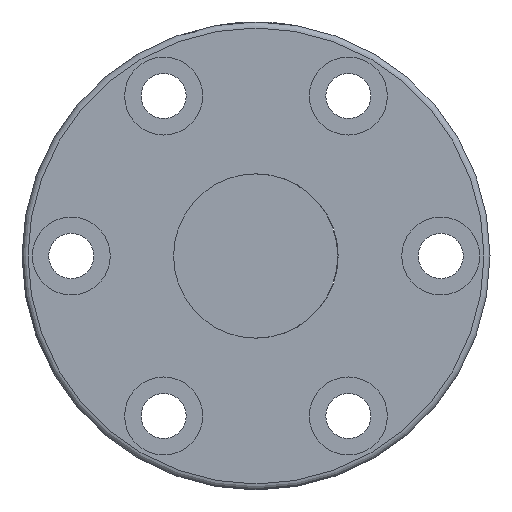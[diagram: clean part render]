
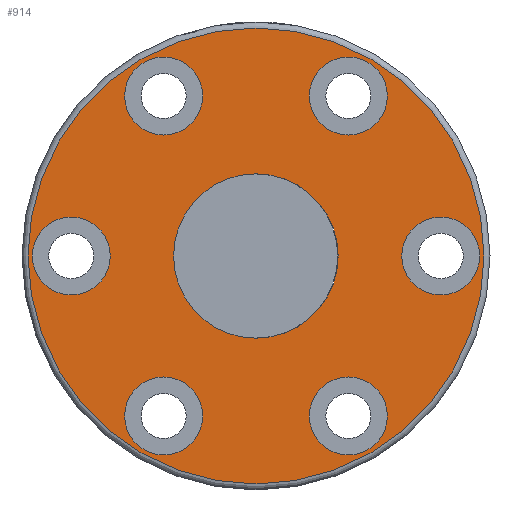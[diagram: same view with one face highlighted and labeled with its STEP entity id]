
A CAD part, front view. The second image highlights one B-rep face of the part: STEP entity #914.
In plain terms, the highlighted planar face has unit normal (0, -1, 0).
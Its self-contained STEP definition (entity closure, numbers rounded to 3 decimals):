
#8 = AXIS2_PLACEMENT_3D ( 'NONE', #836, #941, #947 ) ;
#10 = DIRECTION ( 'NONE',  ( 0., 0., 1. ) ) ;
#21 = CIRCLE ( 'NONE', #325, 27.767 ) ;
#40 = CARTESIAN_POINT ( 'NONE',  ( -22.461, -25.461, 4.75 ) ) ;
#46 = EDGE_CURVE ( 'NONE', #1024, #1024, #354, .T. ) ;
#103 = AXIS2_PLACEMENT_3D ( 'NONE', #989, #920, #656 ) ;
#112 = DIRECTION ( 'NONE',  ( 0., 1., 0. ) ) ;
#127 = EDGE_CURVE ( 'NONE', #1048, #1048, #901, .T. ) ;
#128 = FACE_BOUND ( 'NONE', #320, .T. ) ;
#132 = CARTESIAN_POINT ( 'NONE',  ( 11.289, -25.461, -19.486 ) ) ;
#149 = AXIS2_PLACEMENT_3D ( 'NONE', #676, #430, #10 ) ;
#174 = CARTESIAN_POINT ( 'NONE',  ( -11.211, -25.461, -14.736 ) ) ;
#200 = DIRECTION ( 'NONE',  ( 0., 0., 1. ) ) ;
#216 = FACE_BOUND ( 'NONE', #507, .T. ) ;
#222 = DIRECTION ( 'NONE',  ( 0., 1., 0. ) ) ;
#229 = FACE_BOUND ( 'NONE', #727, .T. ) ;
#237 = EDGE_CURVE ( 'NONE', #972, #972, #807, .T. ) ;
#244 = EDGE_CURVE ( 'NONE', #396, #396, #870, .T. ) ;
#256 = CARTESIAN_POINT ( 'NONE',  ( 11.289, -25.461, -14.736 ) ) ;
#259 = AXIS2_PLACEMENT_3D ( 'NONE', #571, #494, #804 ) ;
#270 = AXIS2_PLACEMENT_3D ( 'NONE', #386, #222, #645 ) ;
#313 = FACE_BOUND ( 'NONE', #881, .T. ) ;
#318 = VERTEX_POINT ( 'NONE', #644 ) ;
#320 = EDGE_LOOP ( 'NONE', ( #578 ) ) ;
#325 = AXIS2_PLACEMENT_3D ( 'NONE', #712, #618, #200 ) ;
#333 = AXIS2_PLACEMENT_3D ( 'NONE', #829, #420, #334 ) ;
#334 = DIRECTION ( 'NONE',  ( 0., 0., 1. ) ) ;
#354 = CIRCLE ( 'NONE', #103, 4.75 ) ;
#386 = CARTESIAN_POINT ( 'NONE',  ( 0.039, -25.461, 0. ) ) ;
#396 = VERTEX_POINT ( 'NONE', #40 ) ;
#407 = PLANE ( 'NONE',  #270 ) ;
#412 = EDGE_CURVE ( 'NONE', #318, #318, #21, .T. ) ;
#420 = DIRECTION ( 'NONE',  ( 0., 1., 0. ) ) ;
#430 = DIRECTION ( 'NONE',  ( 0., 1., 0. ) ) ;
#448 = DIRECTION ( 'NONE',  ( 0., 0., 1. ) ) ;
#459 = EDGE_LOOP ( 'NONE', ( #572 ) ) ;
#460 = CARTESIAN_POINT ( 'NONE',  ( -9.961, -25.461, 0. ) ) ;
#477 = ORIENTED_EDGE ( 'NONE', *, *, #412, .T. ) ;
#484 = DIRECTION ( 'NONE',  ( 0., 1., 0. ) ) ;
#494 = DIRECTION ( 'NONE',  ( 0., 1., 0. ) ) ;
#501 = ORIENTED_EDGE ( 'NONE', *, *, #237, .T. ) ;
#507 = EDGE_LOOP ( 'NONE', ( #501 ) ) ;
#522 = CARTESIAN_POINT ( 'NONE',  ( -11.211, -25.461, -19.486 ) ) ;
#523 = CIRCLE ( 'NONE', #1022, 4.75 ) ;
#547 = FACE_BOUND ( 'NONE', #459, .T. ) ;
#553 = CARTESIAN_POINT ( 'NONE',  ( 11.289, -25.461, 24.236 ) ) ;
#555 = EDGE_LOOP ( 'NONE', ( #909 ) ) ;
#571 = CARTESIAN_POINT ( 'NONE',  ( 11.289, -25.461, 19.486 ) ) ;
#572 = ORIENTED_EDGE ( 'NONE', *, *, #244, .T. ) ;
#578 = ORIENTED_EDGE ( 'NONE', *, *, #127, .T. ) ;
#583 = EDGE_CURVE ( 'NONE', #1090, #1090, #643, .T. ) ;
#592 = ORIENTED_EDGE ( 'NONE', *, *, #46, .T. ) ;
#618 = DIRECTION ( 'NONE',  ( 0., -1., 0. ) ) ;
#637 = FACE_OUTER_BOUND ( 'NONE', #1083, .T. ) ;
#643 = CIRCLE ( 'NONE', #1039, 4.75 ) ;
#644 = CARTESIAN_POINT ( 'NONE',  ( 0.039, -25.461, 27.767 ) ) ;
#645 = DIRECTION ( 'NONE',  ( 1., 0., 0. ) ) ;
#646 = ORIENTED_EDGE ( 'NONE', *, *, #583, .T. ) ;
#656 = DIRECTION ( 'NONE',  ( 0., 0., 1. ) ) ;
#674 = VERTEX_POINT ( 'NONE', #256 ) ;
#676 = CARTESIAN_POINT ( 'NONE',  ( -22.461, -25.461, 0. ) ) ;
#712 = CARTESIAN_POINT ( 'NONE',  ( 0.039, -25.461, 0. ) ) ;
#721 = FACE_BOUND ( 'NONE', #555, .T. ) ;
#727 = EDGE_LOOP ( 'NONE', ( #646 ) ) ;
#804 = DIRECTION ( 'NONE',  ( 0., 0., 1. ) ) ;
#807 = CIRCLE ( 'NONE', #8, 10. ) ;
#815 = DIRECTION ( 'NONE',  ( 0., 0., 1. ) ) ;
#829 = CARTESIAN_POINT ( 'NONE',  ( 22.539, -25.461, 0. ) ) ;
#836 = CARTESIAN_POINT ( 'NONE',  ( 0.039, -25.461, 0. ) ) ;
#839 = ORIENTED_EDGE ( 'NONE', *, *, #1082, .T. ) ;
#870 = CIRCLE ( 'NONE', #149, 4.75 ) ;
#881 = EDGE_LOOP ( 'NONE', ( #839 ) ) ;
#896 = VERTEX_POINT ( 'NONE', #988 ) ;
#901 = CIRCLE ( 'NONE', #259, 4.75 ) ;
#909 = ORIENTED_EDGE ( 'NONE', *, *, #949, .T. ) ;
#914 = ADVANCED_FACE ( 'NONE', ( #313, #547, #721, #229, #128, #1066, #637, #216 ), #407, .F. ) ;
#920 = DIRECTION ( 'NONE',  ( 0., 1., 0. ) ) ;
#937 = CARTESIAN_POINT ( 'NONE',  ( -11.211, -25.461, 24.236 ) ) ;
#941 = DIRECTION ( 'NONE',  ( 0., 1., 0. ) ) ;
#947 = DIRECTION ( 'NONE',  ( -1., 0., 0. ) ) ;
#949 = EDGE_CURVE ( 'NONE', #674, #674, #523, .T. ) ;
#972 = VERTEX_POINT ( 'NONE', #460 ) ;
#988 = CARTESIAN_POINT ( 'NONE',  ( 22.539, -25.461, 4.75 ) ) ;
#989 = CARTESIAN_POINT ( 'NONE',  ( -11.211, -25.461, 19.486 ) ) ;
#1015 = CIRCLE ( 'NONE', #333, 4.75 ) ;
#1022 = AXIS2_PLACEMENT_3D ( 'NONE', #132, #484, #815 ) ;
#1024 = VERTEX_POINT ( 'NONE', #937 ) ;
#1039 = AXIS2_PLACEMENT_3D ( 'NONE', #522, #112, #448 ) ;
#1048 = VERTEX_POINT ( 'NONE', #553 ) ;
#1061 = EDGE_LOOP ( 'NONE', ( #592 ) ) ;
#1066 = FACE_BOUND ( 'NONE', #1061, .T. ) ;
#1082 = EDGE_CURVE ( 'NONE', #896, #896, #1015, .T. ) ;
#1083 = EDGE_LOOP ( 'NONE', ( #477 ) ) ;
#1090 = VERTEX_POINT ( 'NONE', #174 ) ;
